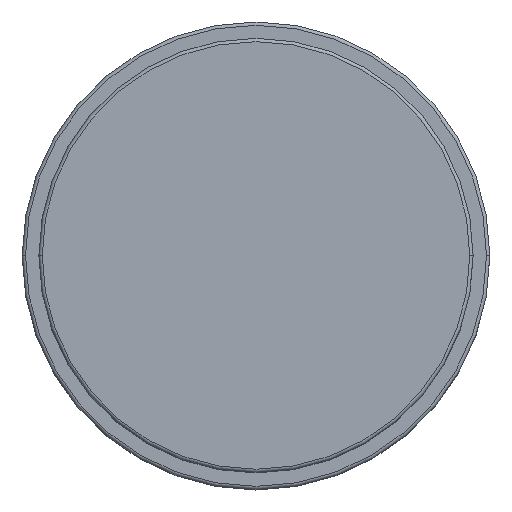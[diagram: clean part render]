
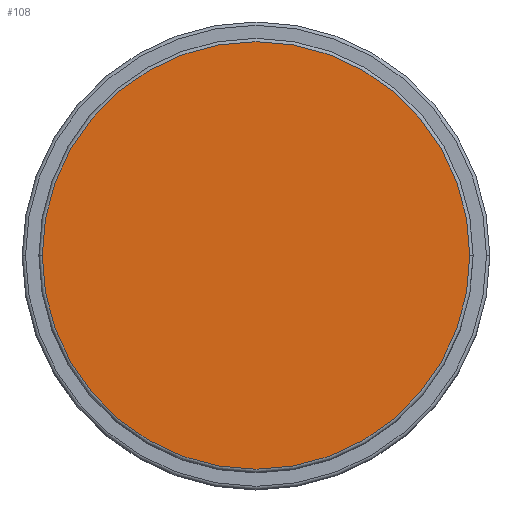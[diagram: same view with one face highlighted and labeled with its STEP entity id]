
A CAD part, top view. The second image highlights one B-rep face of the part: STEP entity #108.
In plain terms, the highlighted planar face has unit normal (0, 0, 1).
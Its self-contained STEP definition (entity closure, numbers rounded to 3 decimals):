
#18 = CARTESIAN_POINT ( 'NONE',  ( 0., 0., 62. ) ) ;
#108 = ADVANCED_FACE ( 'NONE', ( #817 ), #1637, .T. ) ;
#122 = EDGE_LOOP ( 'NONE', ( #500, #1207 ) ) ;
#149 = DIRECTION ( 'NONE',  ( 1., 0., 0. ) ) ;
#169 = AXIS2_PLACEMENT_3D ( 'NONE', #852, #989, #149 ) ;
#185 = AXIS2_PLACEMENT_3D ( 'NONE', #1355, #1078, #1470 ) ;
#500 = ORIENTED_EDGE ( 'NONE', *, *, #1068, .T. ) ;
#515 = VERTEX_POINT ( 'NONE', #902 ) ;
#817 = FACE_OUTER_BOUND ( 'NONE', #122, .T. ) ;
#852 = CARTESIAN_POINT ( 'NONE',  ( 0., 0., 62. ) ) ;
#902 = CARTESIAN_POINT ( 'NONE',  ( -32., 0., 62. ) ) ;
#952 = EDGE_CURVE ( 'NONE', #515, #1321, #1442, .T. ) ;
#989 = DIRECTION ( 'NONE',  ( 0., 0., 1. ) ) ;
#1005 = DIRECTION ( 'NONE',  ( 0., 0., 1. ) ) ;
#1068 = EDGE_CURVE ( 'NONE', #1321, #515, #1195, .T. ) ;
#1078 = DIRECTION ( 'NONE',  ( 0., 0., 1. ) ) ;
#1195 = CIRCLE ( 'NONE', #1638, 32. ) ;
#1207 = ORIENTED_EDGE ( 'NONE', *, *, #952, .T. ) ;
#1210 = CARTESIAN_POINT ( 'NONE',  ( 32., 0., 62. ) ) ;
#1321 = VERTEX_POINT ( 'NONE', #1210 ) ;
#1355 = CARTESIAN_POINT ( 'NONE',  ( 0., 0., 62. ) ) ;
#1442 = CIRCLE ( 'NONE', #169, 32. ) ;
#1470 = DIRECTION ( 'NONE',  ( 1., 0., 0. ) ) ;
#1637 = PLANE ( 'NONE',  #185 ) ;
#1638 = AXIS2_PLACEMENT_3D ( 'NONE', #18, #1005, #1704 ) ;
#1704 = DIRECTION ( 'NONE',  ( 1., 0., 0. ) ) ;
